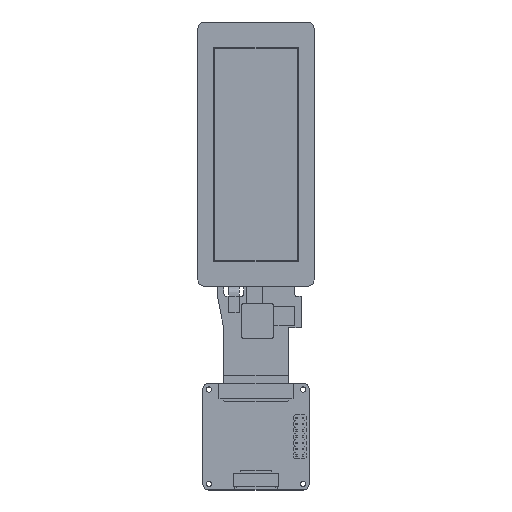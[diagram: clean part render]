
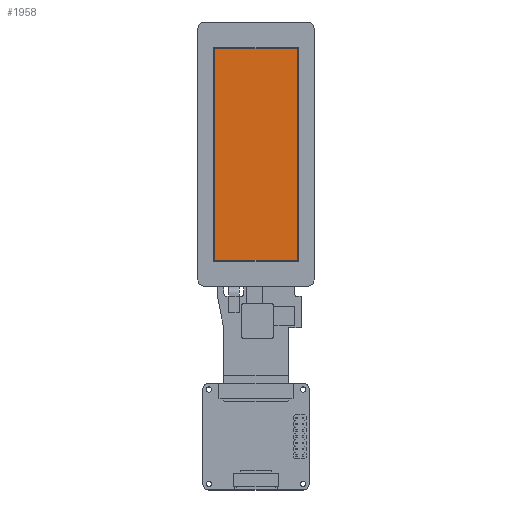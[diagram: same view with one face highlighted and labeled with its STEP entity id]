
A CAD part, top view. The second image highlights one B-rep face of the part: STEP entity #1958.
In plain terms, the highlighted planar face has unit normal (0, 0, 1).
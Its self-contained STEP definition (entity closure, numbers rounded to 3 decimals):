
#1622=DIRECTION('',(0.,1.,0.));
#1623=VECTOR('',#1622,67.65);
#1624=CARTESIAN_POINT('',(-13.2,-31.95,3.915));
#1625=LINE('',#1624,#1623);
#1626=DIRECTION('',(-1.,0.,0.));
#1627=VECTOR('',#1626,26.4);
#1628=CARTESIAN_POINT('',(13.2,-31.95,3.915));
#1629=LINE('',#1628,#1627);
#1630=DIRECTION('',(0.,-1.,0.));
#1631=VECTOR('',#1630,67.65);
#1632=CARTESIAN_POINT('',(13.2,35.7,3.915));
#1633=LINE('',#1632,#1631);
#1634=DIRECTION('',(1.,0.,0.));
#1635=VECTOR('',#1634,26.4);
#1636=CARTESIAN_POINT('',(-13.2,35.7,3.915));
#1637=LINE('',#1636,#1635);
#1678=CARTESIAN_POINT('',(-13.2,-31.95,3.915));
#1679=CARTESIAN_POINT('',(-13.2,35.7,3.915));
#1680=VERTEX_POINT('',#1678);
#1681=VERTEX_POINT('',#1679);
#1682=CARTESIAN_POINT('',(13.2,35.7,3.915));
#1683=VERTEX_POINT('',#1682);
#1684=CARTESIAN_POINT('',(13.2,-31.95,3.915));
#1685=VERTEX_POINT('',#1684);
#1947=CARTESIAN_POINT('',(0.,1.875,3.915));
#1948=DIRECTION('',(0.,0.,1.));
#1949=DIRECTION('',(1.,0.,0.));
#1950=AXIS2_PLACEMENT_3D('',#1947,#1948,#1949);
#1951=PLANE('',#1950);
#1952=ORIENTED_EDGE('',*,*,#1929,.T.);
#1953=ORIENTED_EDGE('',*,*,#1935,.T.);
#1954=ORIENTED_EDGE('',*,*,#1933,.T.);
#1955=ORIENTED_EDGE('',*,*,#1931,.T.);
#1956=EDGE_LOOP('',(#1952,#1953,#1954,#1955));
#1957=FACE_OUTER_BOUND('',#1956,.F.);
#1929=EDGE_CURVE('',#1680,#1681,#1625,.T.);
#1931=EDGE_CURVE('',#1685,#1680,#1629,.T.);
#1933=EDGE_CURVE('',#1683,#1685,#1633,.T.);
#1935=EDGE_CURVE('',#1681,#1683,#1637,.T.);
#1958=ADVANCED_FACE('',(#1957),#1951,.T.);
